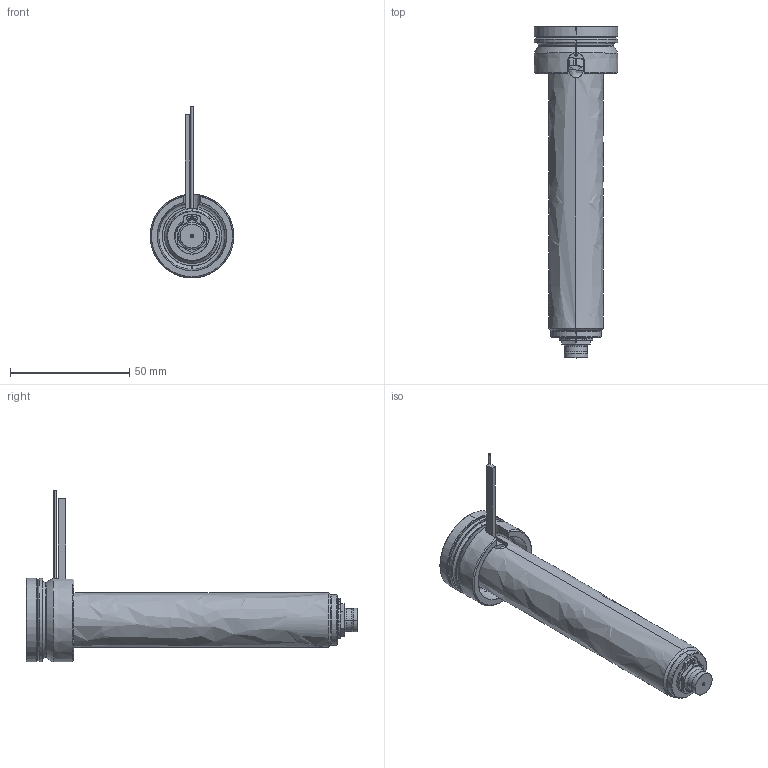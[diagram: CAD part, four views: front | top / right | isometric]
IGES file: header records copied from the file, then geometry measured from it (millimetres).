
Start section: SolidWorks IGES file using analytic representation for surfaces
Global section: file name: C:\Documents and Settings\ws-20\Desktop\TEM\UGEP3153-S-A-1 [Øf-0.50 P-0 ØC-6.0].IGS; native system: SolidWorks 2012; preprocessor: SolidWorks 2012; author: ws-20; date: 120404.080932; units: millimetre
Bounding box: 35 x 139 x 71.9 mm (x, y, z)
Surface area: 27872.2 mm2 (no closed solid volume)
Topology: 0 solids, 0 shells, 126 faces, 1940 edges, 1940 vertices
Faces by surface type: revolution 77, bspline 49
